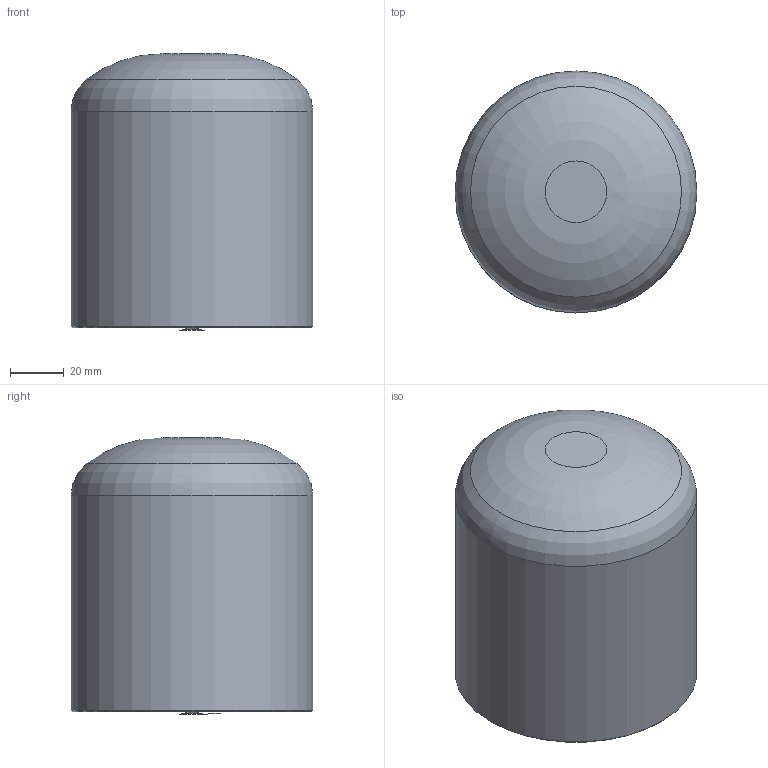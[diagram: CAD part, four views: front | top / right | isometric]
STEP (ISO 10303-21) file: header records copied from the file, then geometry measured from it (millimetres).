
FILE_DESCRIPTION(/* description */ ('Unknown'),/* implementation_level */ '2;1');
FILE_NAME(/* name */ 'CAP090C',/* time_stamp */ '2021-02-04T09:24:46+01:00',/* author */ ('Unknown'),/* organization */ ('Unknown'),/* preprocessor_version */ 'ST-DEVELOPER v16.7',/* originating_system */ 'Solid Edge',/* authorisation */ 'Unknown');
FILE_SCHEMA (('AUTOMOTIVE_DESIGN {1 0 10303 214 3 1 1}'));
Length unit declared in the file: millimetre
Products named in the file (1): CAP090C
Bounding box: 90 x 90 x 102.89 mm (x, y, z)
Volume: 509762.8 mm3; surface area: 80590.7 mm2
Topology: 1 solids, 1 shells, 65 faces, 163 edges, 101 vertices
Faces by surface type: bspline 38, torus 16, plane 8, cylinder 2, cone 1
Full cylindrical faces by diameter (mm): 73.6 x1, 90 x1
Entity records: 2590 total; most frequent: CARTESIAN_POINT 1392, ORIENTED_EDGE 306, EDGE_CURVE 153, DIRECTION 146, B_SPLINE_CURVE_WITH_KNOTS 108, VERTEX_POINT 97, AXIS2_PLACEMENT_3D 73, FACE_BOUND 72
